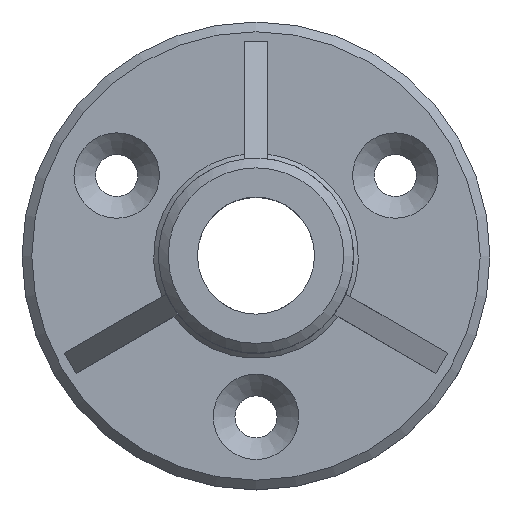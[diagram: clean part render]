
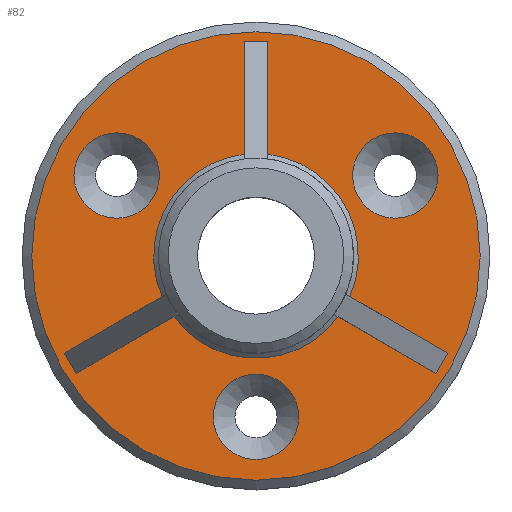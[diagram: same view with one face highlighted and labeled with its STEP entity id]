
A CAD part, top view. The second image highlights one B-rep face of the part: STEP entity #82.
In plain terms, the highlighted planar face has unit normal (0, 0, 1).
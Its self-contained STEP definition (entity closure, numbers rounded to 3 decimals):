
#68=PLANE('',#623);
#82=ADVANCED_FACE('',(#207,#208,#209,#210,#211),#68,.T.);
#134=LINE('',#898,#157);
#135=LINE('',#903,#158);
#136=LINE('',#905,#159);
#137=LINE('',#907,#160);
#138=LINE('',#911,#161);
#139=LINE('',#913,#162);
#140=LINE('',#915,#163);
#141=LINE('',#919,#164);
#142=LINE('',#921,#165);
#157=VECTOR('',#705,1.);
#158=VECTOR('',#708,1.);
#159=VECTOR('',#709,1.);
#160=VECTOR('',#710,1.);
#161=VECTOR('',#713,1.);
#162=VECTOR('',#714,1.);
#163=VECTOR('',#715,1.);
#164=VECTOR('',#718,1.);
#165=VECTOR('',#719,1.);
#178=CIRCLE('',#616,9.125);
#179=CIRCLE('',#617,9.125);
#180=CIRCLE('',#618,9.125);
#181=CIRCLE('',#619,21.875);
#182=CIRCLE('',#620,21.875);
#183=CIRCLE('',#621,21.875);
#184=CIRCLE('',#622,47.917);
#207=FACE_BOUND('',#249,.T.);
#208=FACE_BOUND('',#250,.T.);
#209=FACE_BOUND('',#251,.T.);
#210=FACE_BOUND('',#252,.T.);
#211=FACE_BOUND('',#253,.T.);
#249=EDGE_LOOP('',(#322));
#250=EDGE_LOOP('',(#323));
#251=EDGE_LOOP('',(#324));
#252=EDGE_LOOP('',(#325,#326,#327,#328,#329,#330,#331,#332,#333,#334,#335,
#336));
#253=EDGE_LOOP('',(#337));
#322=ORIENTED_EDGE('',*,*,#528,.T.);
#323=ORIENTED_EDGE('',*,*,#529,.T.);
#324=ORIENTED_EDGE('',*,*,#530,.T.);
#325=ORIENTED_EDGE('',*,*,#531,.F.);
#326=ORIENTED_EDGE('',*,*,#532,.T.);
#327=ORIENTED_EDGE('',*,*,#533,.T.);
#328=ORIENTED_EDGE('',*,*,#534,.F.);
#329=ORIENTED_EDGE('',*,*,#535,.F.);
#330=ORIENTED_EDGE('',*,*,#536,.T.);
#331=ORIENTED_EDGE('',*,*,#537,.T.);
#332=ORIENTED_EDGE('',*,*,#538,.F.);
#333=ORIENTED_EDGE('',*,*,#539,.F.);
#334=ORIENTED_EDGE('',*,*,#540,.T.);
#335=ORIENTED_EDGE('',*,*,#541,.T.);
#336=ORIENTED_EDGE('',*,*,#542,.T.);
#337=ORIENTED_EDGE('',*,*,#543,.T.);
#472=VERTEX_POINT('',#893);
#473=VERTEX_POINT('',#895);
#474=VERTEX_POINT('',#897);
#475=VERTEX_POINT('',#899);
#476=VERTEX_POINT('',#900);
#477=VERTEX_POINT('',#902);
#478=VERTEX_POINT('',#904);
#479=VERTEX_POINT('',#906);
#480=VERTEX_POINT('',#908);
#481=VERTEX_POINT('',#910);
#482=VERTEX_POINT('',#912);
#483=VERTEX_POINT('',#914);
#484=VERTEX_POINT('',#916);
#485=VERTEX_POINT('',#918);
#486=VERTEX_POINT('',#920);
#487=VERTEX_POINT('',#923);
#528=EDGE_CURVE('',#472,#472,#178,.T.);
#529=EDGE_CURVE('',#473,#473,#179,.T.);
#530=EDGE_CURVE('',#474,#474,#180,.T.);
#531=EDGE_CURVE('',#475,#476,#134,.T.);
#532=EDGE_CURVE('',#475,#477,#181,.T.);
#533=EDGE_CURVE('',#477,#478,#135,.T.);
#534=EDGE_CURVE('',#479,#478,#136,.T.);
#535=EDGE_CURVE('',#480,#479,#137,.T.);
#536=EDGE_CURVE('',#480,#481,#182,.T.);
#537=EDGE_CURVE('',#481,#482,#138,.T.);
#538=EDGE_CURVE('',#483,#482,#139,.T.);
#539=EDGE_CURVE('',#484,#483,#140,.T.);
#540=EDGE_CURVE('',#484,#485,#183,.T.);
#541=EDGE_CURVE('',#485,#486,#141,.T.);
#542=EDGE_CURVE('',#486,#476,#142,.T.);
#543=EDGE_CURVE('',#487,#487,#184,.T.);
#616=AXIS2_PLACEMENT_3D('',#892,#699,#700);
#617=AXIS2_PLACEMENT_3D('',#894,#701,#702);
#618=AXIS2_PLACEMENT_3D('',#896,#703,#704);
#619=AXIS2_PLACEMENT_3D('',#901,#706,#707);
#620=AXIS2_PLACEMENT_3D('',#909,#711,#712);
#621=AXIS2_PLACEMENT_3D('',#917,#716,#717);
#622=AXIS2_PLACEMENT_3D('',#922,#720,#721);
#623=AXIS2_PLACEMENT_3D('',#924,#722,#723);
#699=DIRECTION('',(0.,0.,-1.));
#700=DIRECTION('',(-1.,0.,0.));
#701=DIRECTION('',(0.,0.,-1.));
#702=DIRECTION('',(-1.,0.,0.));
#703=DIRECTION('',(0.,0.,-1.));
#704=DIRECTION('',(-1.,0.,0.));
#705=DIRECTION('',(0.,1.,0.));
#706=DIRECTION('',(0.,0.,-1.));
#707=DIRECTION('',(1.,0.,0.));
#708=DIRECTION('',(0.866,-0.5,0.));
#709=DIRECTION('',(0.5,0.866,0.));
#710=DIRECTION('',(0.866,-0.5,0.));
#711=DIRECTION('',(0.,0.,-1.));
#712=DIRECTION('',(1.,0.,0.));
#713=DIRECTION('',(-0.866,-0.5,0.));
#714=DIRECTION('',(0.5,-0.866,0.));
#715=DIRECTION('',(-0.866,-0.5,0.));
#716=DIRECTION('',(0.,0.,-1.));
#717=DIRECTION('',(1.,0.,0.));
#718=DIRECTION('',(0.,1.,0.));
#719=DIRECTION('',(1.,0.,0.));
#720=DIRECTION('',(0.,0.,1.));
#721=DIRECTION('',(1.,0.,0.));
#722=DIRECTION('',(0.,0.,1.));
#723=DIRECTION('',(1.,0.,0.));
#892=CARTESIAN_POINT('',(0.,-34.375,8.333));
#893=CARTESIAN_POINT('',(-9.125,-34.375,8.333));
#894=CARTESIAN_POINT('',(29.77,17.187,8.333));
#895=CARTESIAN_POINT('',(20.645,17.187,8.333));
#896=CARTESIAN_POINT('',(-29.77,17.187,8.333));
#897=CARTESIAN_POINT('',(-38.895,17.187,8.333));
#898=CARTESIAN_POINT('',(2.5,16.667,8.333));
#899=CARTESIAN_POINT('',(2.5,21.732,8.333));
#900=CARTESIAN_POINT('',(2.5,45.833,8.333));
#901=CARTESIAN_POINT('',(0.,0.,8.333));
#902=CARTESIAN_POINT('',(20.07,-8.701,8.333));
#903=CARTESIAN_POINT('',(15.684,-6.168,8.333));
#904=CARTESIAN_POINT('',(40.943,-20.752,8.333));
#905=CARTESIAN_POINT('',(38.443,-25.082,8.333));
#906=CARTESIAN_POINT('',(38.443,-25.082,8.333));
#907=CARTESIAN_POINT('',(13.184,-10.498,8.333));
#908=CARTESIAN_POINT('',(17.57,-13.031,8.333));
#909=CARTESIAN_POINT('',(0.,0.,8.333));
#910=CARTESIAN_POINT('',(-17.57,-13.031,8.333));
#911=CARTESIAN_POINT('',(-13.184,-10.498,8.333));
#912=CARTESIAN_POINT('',(-38.443,-25.082,8.333));
#913=CARTESIAN_POINT('',(-40.943,-20.752,8.333));
#914=CARTESIAN_POINT('',(-40.943,-20.752,8.333));
#915=CARTESIAN_POINT('',(-15.684,-6.168,8.333));
#916=CARTESIAN_POINT('',(-20.07,-8.701,8.333));
#917=CARTESIAN_POINT('',(0.,0.,8.333));
#918=CARTESIAN_POINT('',(-2.5,21.732,8.333));
#919=CARTESIAN_POINT('',(-2.5,16.667,8.333));
#920=CARTESIAN_POINT('',(-2.5,45.833,8.333));
#921=CARTESIAN_POINT('',(2.5,45.833,8.333));
#922=CARTESIAN_POINT('',(0.,0.,8.333));
#923=CARTESIAN_POINT('',(47.917,0.,8.333));
#924=CARTESIAN_POINT('',(50.,0.,8.333));
